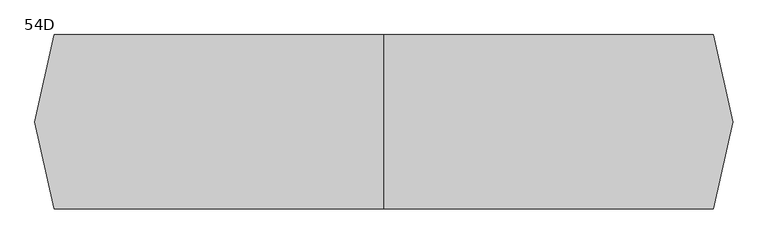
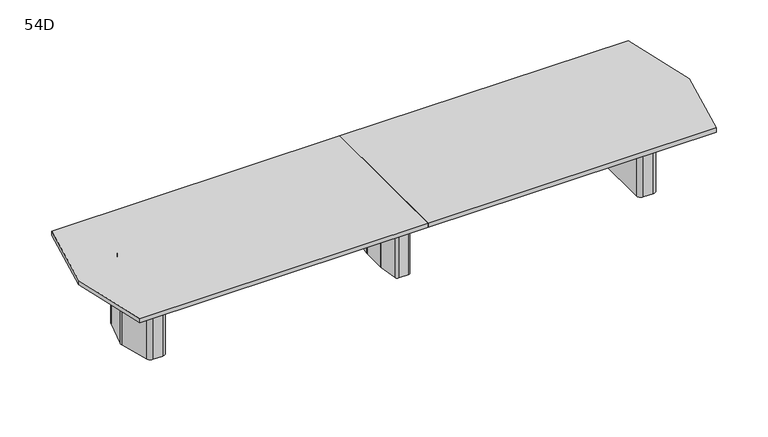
"""IFC4 building model written with IfcOpenShell, lengths in millimetres: furniture geometry, Coalesse_AM_Table_Conference_ETable2_Faceted_18ft_ThreeBase : 54D."""

from ifc_helpers import new_model, si_unit, frame, origin, place, context, project, spatial, polyline, circle_curve, outline, extrude, source, transform, mapped, element, save
from ifc_brep_helpers import plane_surface, cylinder_surface, revolved_surface, advanced_brep


def furniture_54d_fb529151(model_context):
    return source(origin(), model_context, "Body", "SolidModel", [
        advanced_brep(
        [(35.71875, 206.375, 3.175), (10.31875, 231.775, 3.175), (-10.31875, 231.775, 3.175), (-35.71875, 206.375, 3.175), (-35.71875, -206.375, 3.175), (-10.31875, -231.775, 3.175), (10.31875, -231.775, 3.175), (35.71875, -206.375, 3.175), (-61.11875, 206.375, 0.0), (-10.31875, 257.175, 0.0), (10.31875, 257.175, 0.0), (61.11875, 206.375, 0.0), (61.11875, -206.375, 0.0), (10.31875, -257.175, 0.0), (-10.31875, -257.175, 0.0), (-61.11875, -206.375, 0.0), (-61.11875, -206.375, 3.175), (-61.11875, 206.375, 3.175), (-10.31875, -257.175, 3.175), (10.31875, -257.175, 3.175), (61.11875, -206.375, 3.175), (61.11875, 206.375, 3.175), (10.31875, 257.175, 3.175), (-10.31875, 257.175, 3.175), (-92.6215974, 106.2976848, 698.5), (-92.86875, 102.7629613, 698.5), (-92.86875, -102.7629613, 698.5), (-92.6215974, -106.2976848, 698.5), (-67.7988375, -282.9347235, 698.5), (-42.6459902, -304.8, 698.5), (42.6459902, -304.8, 698.5), (67.7988375, -282.9347235, 698.5), (92.6215974, -106.2976848, 698.5), (92.86875, -102.7629613, 698.5), (92.86875, 102.7629613, 698.5), (92.6215974, 106.2976848, 698.5), (67.7988375, 282.9347235, 698.5), (42.6459902, 304.8, 698.5), (-42.6459902, 304.8, 698.5), (-67.7988375, 282.9347235, 698.5), (10.31875, 231.775, 698.5), (35.71875, 206.375, 698.5), (35.71875, -206.375, 698.5), (10.31875, -231.775, 698.5), (-10.31875, -231.775, 698.5), (-35.71875, -206.375, 698.5), (-35.71875, 206.375, 698.5), (-10.31875, 231.775, 698.5), (-92.6215974, 106.2976848, 3.175), (-67.7988375, 282.9347235, 3.175), (-42.6459902, 304.8, 3.175), (42.6459902, 304.8, 3.175), (67.7988375, 282.9347235, 3.175), (92.6215974, 106.2976848, 3.175), (92.86875, 102.7629613, 3.175), (92.86875, -102.7629613, 3.175), (92.6215974, -106.2976848, 3.175), (67.7988375, -282.9347235, 3.175), (42.6459902, -304.8, 3.175), (-42.6459902, -304.8, 3.175), (-67.7988375, -282.9347235, 3.175), (-92.6215974, -106.2976848, 3.175), (-92.86875, -102.7629613, 3.175), (-92.86875, 102.7629613, 3.175)],
        [
            (0, 1, circle_curve(frame((10.31875, 206.375, 3.175), z_axis=(0.0, 0.0, 1.0), x_axis=(1.0, 0.0, 0.0)), 25.4)),
            (1, 2),
            (2, 3, circle_curve(frame((-10.31875, 206.375, 3.175), z_axis=(0.0, 0.0, 1.0), x_axis=(1.0, 0.0, 0.0)), 25.4)),
            (3, 4),
            (4, 5, circle_curve(frame((-10.31875, -206.375, 3.175), z_axis=(0.0, 0.0, 1.0), x_axis=(1.0, 0.0, 0.0)), 25.4)),
            (5, 6),
            (6, 7, circle_curve(frame((10.31875, -206.375, 3.175), z_axis=(0.0, 0.0, 1.0), x_axis=(1.0, 0.0, 0.0)), 25.4)),
            (7, 0),
            (8, 9, circle_curve(frame((-10.31875, 206.375, 0.0), z_axis=(0.0, 0.0, -1.0), x_axis=(1.0, 0.0, 0.0)), 50.8)),
            (9, 10),
            (10, 11, circle_curve(frame((10.31875, 206.375, 0.0), z_axis=(0.0, 0.0, -1.0), x_axis=(1.0, 0.0, 0.0)), 50.8)),
            (11, 12),
            (12, 13, circle_curve(frame((10.31875, -206.375, 0.0), z_axis=(0.0, 0.0, -1.0), x_axis=(1.0, 0.0, 0.0)), 50.8)),
            (13, 14),
            (14, 15, circle_curve(frame((-10.31875, -206.375, 0.0), z_axis=(0.0, 0.0, -1.0), x_axis=(1.0, 0.0, 0.0)), 50.8)),
            (15, 8),
            (15, 16),
            (16, 17),
            (17, 8),
            (14, 18),
            (18, 16, circle_curve(frame((-10.31875, -206.375, 3.175), z_axis=(0.0, 0.0, -1.0), x_axis=(1.0, 0.0, 0.0)), 50.8)),
            (13, 19),
            (19, 18),
            (12, 20),
            (20, 19, circle_curve(frame((10.31875, -206.375, 3.175), z_axis=(0.0, 0.0, -1.0), x_axis=(1.0, 0.0, 0.0)), 50.8)),
            (11, 21),
            (21, 20),
            (10, 22),
            (22, 21, circle_curve(frame((10.31875, 206.375, 3.175), z_axis=(0.0, 0.0, -1.0), x_axis=(1.0, 0.0, 0.0)), 50.8)),
            (9, 23),
            (23, 22),
            (17, 23, circle_curve(frame((-10.31875, 206.375, 3.175), z_axis=(0.0, 0.0, -1.0), x_axis=(1.0, 0.0, 0.0)), 50.8)),
            (24, 25, circle_curve(frame((-67.46875, 102.7629613, 698.5), z_axis=(0.0, 0.0, 1.0), x_axis=(1.0, 0.0, 0.0)), 25.4)),
            (25, 26),
            (26, 27, circle_curve(frame((-67.46875, -102.7629613, 698.5), z_axis=(0.0, 0.0, 1.0), x_axis=(1.0, 0.0, 0.0)), 25.4)),
            (27, 28),
            (28, 29, circle_curve(frame((-42.6459902, -279.4, 698.5), z_axis=(0.0, 0.0, 1.0), x_axis=(1.0, 0.0, 0.0)), 25.4)),
            (29, 30),
            (30, 31, circle_curve(frame((42.6459902, -279.4, 698.5), z_axis=(0.0, 0.0, 1.0), x_axis=(1.0, 0.0, 0.0)), 25.4)),
            (31, 32),
            (32, 33, circle_curve(frame((67.46875, -102.7629613, 698.5), z_axis=(0.0, 0.0, 1.0), x_axis=(1.0, 0.0, 0.0)), 25.4)),
            (33, 34),
            (34, 35, circle_curve(frame((67.46875, 102.7629613, 698.5), z_axis=(0.0, 0.0, 1.0), x_axis=(1.0, 0.0, 0.0)), 25.4)),
            (35, 36),
            (36, 37, circle_curve(frame((42.6459902, 279.4, 698.5), z_axis=(0.0, 0.0, 1.0), x_axis=(1.0, 0.0, 0.0)), 25.4)),
            (37, 38),
            (38, 39, circle_curve(frame((-42.6459902, 279.4, 698.5), z_axis=(0.0, 0.0, 1.0), x_axis=(1.0, 0.0, 0.0)), 25.4)),
            (39, 24),
            (40, 41, circle_curve(frame((10.31875, 206.375, 698.5), z_axis=(0.0, 0.0, -1.0), x_axis=(1.0, 0.0, 0.0)), 25.4)),
            (41, 42),
            (42, 43, circle_curve(frame((10.31875, -206.375, 698.5), z_axis=(0.0, 0.0, -1.0), x_axis=(1.0, 0.0, 0.0)), 25.4)),
            (43, 44),
            (44, 45, circle_curve(frame((-10.31875, -206.375, 698.5), z_axis=(0.0, 0.0, -1.0), x_axis=(1.0, 0.0, 0.0)), 25.4)),
            (45, 46),
            (46, 47, circle_curve(frame((-10.31875, 206.375, 698.5), z_axis=(0.0, 0.0, -1.0), x_axis=(1.0, 0.0, 0.0)), 25.4)),
            (47, 40),
            (48, 49),
            (49, 50, circle_curve(frame((-42.6459902, 279.4, 3.175), z_axis=(0.0, 0.0, -1.0), x_axis=(1.0, 0.0, 0.0)), 25.4)),
            (50, 51),
            (51, 52, circle_curve(frame((42.6459902, 279.4, 3.175), z_axis=(0.0, 0.0, -1.0), x_axis=(1.0, 0.0, 0.0)), 25.4)),
            (52, 53),
            (53, 54, circle_curve(frame((67.46875, 102.7629613, 3.175), z_axis=(0.0, 0.0, -1.0), x_axis=(1.0, 0.0, 0.0)), 25.4)),
            (54, 55),
            (55, 56, circle_curve(frame((67.46875, -102.7629613, 3.175), z_axis=(0.0, 0.0, -1.0), x_axis=(1.0, 0.0, 0.0)), 25.4)),
            (56, 57),
            (57, 58, circle_curve(frame((42.6459902, -279.4, 3.175), z_axis=(0.0, 0.0, -1.0), x_axis=(1.0, 0.0, 0.0)), 25.4)),
            (58, 59),
            (59, 60, circle_curve(frame((-42.6459902, -279.4, 3.175), z_axis=(0.0, 0.0, -1.0), x_axis=(1.0, 0.0, 0.0)), 25.4)),
            (60, 61),
            (61, 62, circle_curve(frame((-67.46875, -102.7629613, 3.175), z_axis=(0.0, 0.0, -1.0), x_axis=(1.0, 0.0, 0.0)), 25.4)),
            (62, 63),
            (63, 48, circle_curve(frame((-67.46875, 102.7629613, 3.175), z_axis=(0.0, 0.0, -1.0), x_axis=(1.0, 0.0, 0.0)), 25.4)),
            (24, 48),
            (63, 25),
            (62, 26),
            (61, 27),
            (60, 28),
            (59, 29),
            (58, 30),
            (57, 31),
            (56, 32),
            (55, 33),
            (54, 34),
            (53, 35),
            (52, 36),
            (51, 37),
            (50, 38),
            (49, 39),
            (40, 1),
            (0, 41),
            (7, 42),
            (6, 43),
            (5, 44),
            (4, 45),
            (3, 46),
            (2, 47),
        ],
        [
            plane_surface(frame((-61.11875, -206.375, 3.175), z_axis=(0.0, 0.0, 1.0), x_axis=(0.0, -1.0, 0.0))),
            plane_surface(frame((-61.11875, -206.375, 0.0), z_axis=(0.0, 0.0, -1.0), x_axis=(0.0, 1.0, 0.0))),
            plane_surface(frame((-61.11875, 206.375, 3.175), z_axis=(-1.0, 0.0, 0.0), x_axis=(0.0, 0.0, -1.0))),
            cylinder_surface(frame((-10.31875, -206.375, 0.0), z_axis=(0.0, 0.0, 1.0), x_axis=(1.0, 0.0, 0.0)), 50.8),
            plane_surface(frame((-10.31875, -257.175, 3.175), z_axis=(0.0, -1.0, 0.0), x_axis=(0.0, 0.0, -1.0))),
            cylinder_surface(frame((10.31875, -206.375, 0.0), z_axis=(0.0, 0.0, 1.0), x_axis=(1.0, 0.0, 0.0)), 50.8),
            plane_surface(frame((61.11875, -206.375, 3.175), z_axis=(1.0, 0.0, 0.0), x_axis=(0.0, 0.0, -1.0))),
            cylinder_surface(frame((10.31875, 206.375, 0.0), z_axis=(0.0, 0.0, 1.0), x_axis=(1.0, 0.0, 0.0)), 50.8),
            plane_surface(frame((10.31875, 257.175, 3.175), z_axis=(0.0, 1.0, 0.0), x_axis=(0.0, 0.0, -1.0))),
            cylinder_surface(frame((-10.31875, 206.375, 0.0), z_axis=(0.0, 0.0, 1.0), x_axis=(1.0, 0.0, 0.0)), 50.8),
            plane_surface(frame((-42.06875, 102.7629613, 698.5), z_axis=(0.0, 0.0, 1.0), x_axis=(0.0, 1.0, 0.0))),
            plane_surface(frame((-42.06875, 102.7629613, 3.175), z_axis=(0.0, 0.0, -1.0), x_axis=(0.0, -1.0, 0.0))),
            cylinder_surface(frame((-67.46875, 102.7629613, 3.175), z_axis=(0.0, 0.0, 1.0), x_axis=(1.0, 0.0, 0.0)), 25.4),
            plane_surface(frame((-92.86875, 102.7629613, 698.5), z_axis=(-1.0, 0.0, 0.0), x_axis=(0.0, 0.0, -1.0))),
            cylinder_surface(frame((-67.46875, -102.7629613, 3.175), z_axis=(0.0, 0.0, 1.0), x_axis=(1.0, 0.0, 0.0)), 25.4),
            plane_surface(frame((-92.6215974, -106.2976848, 698.5), z_axis=(-0.9902695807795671, -0.13916234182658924, 0.0), x_axis=(0.0, 0.0, -1.0))),
            cylinder_surface(frame((-42.6459902, -279.4, 3.175), z_axis=(0.0, 0.0, 1.0), x_axis=(1.0, 0.0, 0.0)), 25.4),
            plane_surface(frame((-42.6459902, -304.8, 698.5), z_axis=(0.0, -1.0, 0.0), x_axis=(0.0, 0.0, -1.0))),
            cylinder_surface(frame((42.6459902, -279.4, 3.175), z_axis=(0.0, 0.0, 1.0), x_axis=(1.0, 0.0, 0.0)), 25.4),
            plane_surface(frame((67.7988375, -282.9347235, 698.5), z_axis=(0.9902695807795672, -0.13916234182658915, 0.0), x_axis=(0.0, 0.0, -1.0))),
            cylinder_surface(frame((67.46875, -102.7629613, 3.175), z_axis=(0.0, 0.0, 1.0), x_axis=(1.0, 0.0, 0.0)), 25.4),
            plane_surface(frame((92.86875, -102.7629613, 698.5), z_axis=(1.0, 0.0, 0.0), x_axis=(0.0, 0.0, -1.0))),
            cylinder_surface(frame((67.46875, 102.7629613, 3.175), z_axis=(0.0, 0.0, 1.0), x_axis=(1.0, 0.0, 0.0)), 25.4),
            plane_surface(frame((92.6215974, 106.2976848, 698.5), z_axis=(0.9902695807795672, 0.1391623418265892, 0.0), x_axis=(0.0, 0.0, -1.0))),
            cylinder_surface(frame((42.6459902, 279.4, 3.175), z_axis=(0.0, 0.0, 1.0), x_axis=(1.0, 0.0, 0.0)), 25.4),
            plane_surface(frame((42.6459902, 304.8, 698.5), z_axis=(0.0, 1.0, 0.0), x_axis=(0.0, 0.0, -1.0))),
            cylinder_surface(frame((-42.6459902, 279.4, 3.175), z_axis=(0.0, 0.0, 1.0), x_axis=(1.0, 0.0, 0.0)), 25.4),
            plane_surface(frame((-67.7988375, 282.9347235, 698.5), z_axis=(-0.9902695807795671, 0.13916234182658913, 0.0), x_axis=(0.0, 0.0, -1.0))),
            revolved_surface(polyline([(35.71875, 206.375, 3.175), (35.71875, 206.375, 698.5)]), (10.31875, 206.375, 0.0), (0.0, 0.0, -1.0)),
            plane_surface(frame((35.71875, 206.375, 698.5), z_axis=(-1.0, 0.0, 0.0), x_axis=(0.0, 0.0, -1.0))),
            revolved_surface(polyline([(35.71875, -206.375, 3.175), (35.71875, -206.375, 698.5)]), (10.31875, -206.375, 0.0), (0.0, 0.0, -1.0)),
            plane_surface(frame((10.31875, -231.775, 698.5), z_axis=(0.0, 1.0, 0.0), x_axis=(0.0, 0.0, -1.0))),
            revolved_surface(polyline([(15.081249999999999, -206.375, 3.175), (15.081249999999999, -206.375, 698.5)]), (-10.31875, -206.375, 0.0), (0.0, 0.0, -1.0)),
            plane_surface(frame((-35.71875, -206.375, 698.5), z_axis=(1.0, 0.0, 0.0), x_axis=(0.0, 0.0, -1.0))),
            revolved_surface(polyline([(15.081249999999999, 206.375, 3.175), (15.081249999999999, 206.375, 698.5)]), (-10.31875, 206.375, 0.0), (0.0, 0.0, -1.0)),
            plane_surface(frame((-10.31875, 231.775, 698.5), z_axis=(0.0, -1.0, 0.0), x_axis=(0.0, 0.0, -1.0))),
        ],
        [
            (0, [[1, 2, 3, 4, 5, 6, 7, 8]]),
            (1, [[9, 10, 11, 12, 13, 14, 15, 16]]),
            (2, [[-16, 17, 18, 19]]),
            (3, [[-15, 20, 21, -17]]),
            (4, [[-14, 22, 23, -20]]),
            (5, [[-13, 24, 25, -22]]),
            (6, [[-12, 26, 27, -24]]),
            (7, [[-11, 28, 29, -26]]),
            (8, [[-10, 30, 31, -28]]),
            (9, [[-9, -19, 32, -30]]),
            (10, [[33, 34, 35, 36, 37, 38, 39, 40, 41, 42, 43, 44, 45, 46, 47, 48], [49, 50, 51, 52, 53, 54, 55, 56]]),
            (11, [[57, 58, 59, 60, 61, 62, 63, 64, 65, 66, 67, 68, 69, 70, 71, 72], [-18, -21, -23, -25, -27, -29, -31, -32]]),
            (12, [[-33, 73, -72, 74]]),
            (13, [[-34, -74, -71, 75]]),
            (14, [[-35, -75, -70, 76]]),
            (15, [[-36, -76, -69, 77]]),
            (16, [[-37, -77, -68, 78]]),
            (17, [[-38, -78, -67, 79]]),
            (18, [[-39, -79, -66, 80]]),
            (19, [[-40, -80, -65, 81]]),
            (20, [[-41, -81, -64, 82]]),
            (21, [[-42, -82, -63, 83]]),
            (22, [[-43, -83, -62, 84]]),
            (23, [[-44, -84, -61, 85]]),
            (24, [[-45, -85, -60, 86]]),
            (25, [[-46, -86, -59, 87]]),
            (26, [[-47, -87, -58, 88]]),
            (27, [[-48, -88, -57, -73]]),
            (28, [[-49, 89, -1, 90]]),
            (29, [[-50, -90, -8, 91]]),
            (30, [[-51, -91, -7, 92]]),
            (31, [[-52, -92, -6, 93]]),
            (32, [[-53, -93, -5, 94]]),
            (33, [[-54, -94, -4, 95]]),
            (34, [[-55, -95, -3, 96]]),
            (35, [[-56, -96, -2, -89]]),
        ],
    ),
        advanced_brep(
        [(2284.624548, 274.2093613, 698.5), (2244.7579246, 304.8, 698.5), (2155.825, 304.8, 698.5), (2114.55, 263.525, 698.5), (2114.55, -263.525, 698.5), (2155.825, -304.8, 698.5), (2244.7579246, -304.8, 698.5), (2284.624548, -274.2093613, 698.5), (2355.2503901, -10.6333708, 698.5), (2355.2503901, 10.6333708, 698.5), (2152.65, -206.375, 698.5), (2152.65, 206.375, 698.5), (2178.05, 231.775, 698.5), (2237.0608422, 231.775, 698.5), (2261.595338, 212.9490792, 698.5), (2300.2875, 68.54974, 698.5), (2300.2875, -68.54974, 698.5), (2261.595338, -212.9490792, 698.5), (2237.0608422, -231.775, 698.5), (2178.05, -231.775, 698.5), (2284.624548, 274.2093613, 3.175), (2355.2503901, 10.6333708, 3.175), (2355.2503901, -10.6333708, 3.175), (2284.624548, -274.2093613, 3.175), (2244.7579246, -304.8, 3.175), (2155.825, -304.8, 3.175), (2114.55, -263.525, 3.175), (2114.55, 263.525, 3.175), (2155.825, 304.8, 3.175), (2244.7579246, 304.8, 3.175), (2273.8625859, 216.2361187, 3.175), (2237.0608422, 244.475, 3.175), (2178.05, 244.475, 3.175), (2139.95, 206.375, 3.175), (2139.95, -206.375, 3.175), (2178.05, -244.475, 3.175), (2237.0608422, -244.475, 3.175), (2273.8625859, -216.2361187, 3.175), (2312.9875, -70.2217466, 3.175), (2312.9875, 70.2217466, 3.175), (2178.05, -231.775, 3.175), (2152.65, -206.375, 3.175), (2237.0608422, -231.775, 3.175), (2261.595338, -212.9490792, 3.175), (2300.2875, -68.54974, 3.175), (2300.2875, 68.54974, 3.175), (2261.595338, 212.9490792, 3.175), (2237.0608422, 231.775, 3.175), (2178.05, 231.775, 3.175), (2152.65, 206.375, 3.175), (2273.8625859, 216.2361187, 0.0), (2312.9875, 70.2217466, 0.0), (2312.9875, -70.2217466, 0.0), (2273.8625859, -216.2361187, 0.0), (2237.0608422, -244.475, 0.0), (2178.05, -244.475, 0.0), (2139.95, -206.375, 0.0), (2139.95, 206.375, 0.0), (2178.05, 244.475, 0.0), (2237.0608422, 244.475, 0.0)],
        [
            (0, 1, circle_curve(frame((2244.7579246, 263.5270004, 698.5), z_axis=(0.0, 0.0, 1.0), x_axis=(-1.0, 0.0, 0.0)), 41.2729996)),
            (1, 2),
            (2, 3, circle_curve(frame((2155.825, 263.525, 698.5), z_axis=(0.0, 0.0, 1.0), x_axis=(-1.0, 0.0, 0.0)), 41.275)),
            (3, 4),
            (4, 5, circle_curve(frame((2155.825, -263.525, 698.5), z_axis=(0.0, 0.0, 1.0), x_axis=(-1.0, 0.0, 0.0)), 41.275)),
            (5, 6),
            (6, 7, circle_curve(frame((2244.7579246, -263.5270004, 698.5), z_axis=(0.0, 0.0, 1.0), x_axis=(-1.0, 0.0, 0.0)), 41.2729996)),
            (7, 8),
            (8, 9, circle_curve(frame((2315.5665979, 0.0, 698.5), z_axis=(0.0, 0.0, 1.0), x_axis=(-1.0, 0.0, 0.0)), 41.0837187)),
            (9, 0),
            (10, 11),
            (11, 12, circle_curve(frame((2178.05, 206.375, 698.5), z_axis=(0.0, 0.0, -1.0), x_axis=(-1.0, 0.0, 0.0)), 25.4)),
            (12, 13),
            (13, 14, circle_curve(frame((2237.0608422, 206.375, 698.5), z_axis=(0.0, 0.0, -1.0), x_axis=(-1.0, 0.0, 0.0)), 25.4)),
            (14, 15),
            (15, 16),
            (16, 17),
            (17, 18, circle_curve(frame((2237.0608422, -206.375, 698.5), z_axis=(0.0, 0.0, -1.0), x_axis=(-1.0, 0.0, 0.0)), 25.4)),
            (18, 19),
            (19, 10, circle_curve(frame((2178.05, -206.375, 698.5), z_axis=(0.0, 0.0, -1.0), x_axis=(-1.0, 0.0, 0.0)), 25.4)),
            (20, 21),
            (21, 22, circle_curve(frame((2315.5665979, 0.0, 3.175), z_axis=(0.0, 0.0, -1.0), x_axis=(-1.0, 0.0, 0.0)), 41.0837187)),
            (22, 23),
            (23, 24, circle_curve(frame((2244.7579246, -263.5270004, 3.175), z_axis=(0.0, 0.0, -1.0), x_axis=(-1.0, 0.0, 0.0)), 41.2729996)),
            (24, 25),
            (25, 26, circle_curve(frame((2155.825, -263.525, 3.175), z_axis=(0.0, 0.0, -1.0), x_axis=(-1.0, 0.0, 0.0)), 41.275)),
            (26, 27),
            (27, 28, circle_curve(frame((2155.825, 263.525, 3.175), z_axis=(0.0, 0.0, -1.0), x_axis=(-1.0, 0.0, 0.0)), 41.275)),
            (28, 29),
            (29, 20, circle_curve(frame((2244.7579246, 263.5270004, 3.175), z_axis=(0.0, 0.0, -1.0), x_axis=(-1.0, 0.0, 0.0)), 41.2729996)),
            (30, 31, circle_curve(frame((2237.0608422, 206.375, 3.175), z_axis=(0.0, 0.0, 1.0), x_axis=(-1.0, 0.0, 0.0)), 38.1)),
            (31, 32),
            (32, 33, circle_curve(frame((2178.05, 206.375, 3.175), z_axis=(0.0, 0.0, 1.0), x_axis=(-1.0, 0.0, 0.0)), 38.1)),
            (33, 34),
            (34, 35, circle_curve(frame((2178.05, -206.375, 3.175), z_axis=(0.0, 0.0, 1.0), x_axis=(-1.0, 0.0, 0.0)), 38.1)),
            (35, 36),
            (36, 37, circle_curve(frame((2237.0608422, -206.375, 3.175), z_axis=(0.0, 0.0, 1.0), x_axis=(-1.0, 0.0, 0.0)), 38.1)),
            (37, 38),
            (38, 39),
            (39, 30),
            (9, 21),
            (20, 0),
            (8, 22),
            (7, 23),
            (6, 24),
            (5, 25),
            (4, 26),
            (3, 27),
            (2, 28),
            (1, 29),
            (19, 40),
            (40, 41, circle_curve(frame((2178.05, -206.375, 3.175), z_axis=(0.0, 0.0, -1.0), x_axis=(-1.0, 0.0, 0.0)), 25.4)),
            (41, 10),
            (18, 42),
            (42, 40),
            (17, 43),
            (43, 42, circle_curve(frame((2237.0608422, -206.375, 3.175), z_axis=(0.0, 0.0, -1.0), x_axis=(-1.0, 0.0, 0.0)), 25.4)),
            (16, 44),
            (44, 43),
            (15, 45),
            (45, 44),
            (14, 46),
            (46, 45),
            (13, 47),
            (47, 46, circle_curve(frame((2237.0608422, 206.375, 3.175), z_axis=(0.0, 0.0, -1.0), x_axis=(-1.0, 0.0, 0.0)), 25.4)),
            (12, 48),
            (48, 47),
            (11, 49),
            (49, 48, circle_curve(frame((2178.05, 206.375, 3.175), z_axis=(0.0, 0.0, -1.0), x_axis=(-1.0, 0.0, 0.0)), 25.4)),
            (41, 49),
            (50, 51),
            (51, 52),
            (52, 53),
            (53, 54, circle_curve(frame((2237.0608422, -206.375, 0.0), z_axis=(0.0, 0.0, -1.0), x_axis=(-1.0, 0.0, 0.0)), 38.1)),
            (54, 55),
            (55, 56, circle_curve(frame((2178.05, -206.375, 0.0), z_axis=(0.0, 0.0, -1.0), x_axis=(-1.0, 0.0, 0.0)), 38.1)),
            (56, 57),
            (57, 58, circle_curve(frame((2178.05, 206.375, 0.0), z_axis=(0.0, 0.0, -1.0), x_axis=(-1.0, 0.0, 0.0)), 38.1)),
            (58, 59),
            (59, 50, circle_curve(frame((2237.0608422, 206.375, 0.0), z_axis=(0.0, 0.0, -1.0), x_axis=(-1.0, 0.0, 0.0)), 38.1)),
            (50, 30),
            (39, 51),
            (38, 52),
            (37, 53),
            (36, 54),
            (35, 55),
            (34, 56),
            (33, 57),
            (32, 58),
            (31, 59),
        ],
        [
            plane_surface(frame((2355.2374275, 10.6817473, 698.5), z_axis=(0.0, 0.0, 1.0000000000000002), x_axis=(0.25882201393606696, -0.9659250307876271, 0.0))),
            plane_surface(frame((2355.2374275, 10.6817473, 3.175), z_axis=(0.0, 0.0, -1.0000000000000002), x_axis=(-0.25882201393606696, 0.9659250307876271, 0.0))),
            plane_surface(frame((2284.624548, 274.2093613, 698.5), z_axis=(0.9659250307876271, 0.25882201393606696, 0.0), x_axis=(0.0, 0.0, -1.0))),
            cylinder_surface(frame((2315.5665979, 0.0, 3.175), z_axis=(0.0, 0.0, 1.0), x_axis=(-1.0, 0.0, 0.0)), 41.0837187),
            plane_surface(frame((2355.2503901, -10.6333708, 698.5), z_axis=(0.9659250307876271, -0.2588220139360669, 0.0), x_axis=(0.0, 0.0, -1.0))),
            cylinder_surface(frame((2244.7579246, -263.5270004, 3.175), z_axis=(0.0, 0.0, 1.0), x_axis=(-1.0, 0.0, 0.0)), 41.2729996),
            plane_surface(frame((2244.7579246, -304.8, 698.5), z_axis=(0.0, -1.0, 0.0), x_axis=(0.0, 0.0, -1.0))),
            cylinder_surface(frame((2155.825, -263.525, 3.175), z_axis=(0.0, 0.0, 1.0), x_axis=(-1.0, 0.0, 0.0)), 41.275),
            plane_surface(frame((2114.55, -263.525, 698.5), z_axis=(-1.0, 0.0, 0.0), x_axis=(0.0, 0.0, -1.0))),
            cylinder_surface(frame((2155.825, 263.525, 3.175), z_axis=(0.0, 0.0, 1.0), x_axis=(-1.0, 0.0, 0.0)), 41.275),
            plane_surface(frame((2155.825, 304.8, 698.5), z_axis=(0.0, 1.0, 0.0), x_axis=(0.0, 0.0, -1.0))),
            cylinder_surface(frame((2244.7579246, 263.5270004, 3.175), z_axis=(0.0, 0.0, 1.0), x_axis=(-1.0, 0.0, 0.0)), 41.2729996),
            revolved_surface(polyline([(2152.65, -206.375, 3.175), (2152.65, -206.375, 698.5)]), (2178.05, -206.375, 0.0), (0.0, 0.0, -1.0)),
            plane_surface(frame((2178.05, -231.775, 698.5), z_axis=(0.0, 1.0, 0.0), x_axis=(0.0, 0.0, -1.0))),
            revolved_surface(polyline([(2211.6608422, -206.375, 3.175), (2211.6608422, -206.375, 698.5)]), (2237.0608422, -206.375, 0.0), (0.0, 0.0, -1.0)),
            plane_surface(frame((2261.595338, -212.9490792, 698.5), z_axis=(-0.9659250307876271, 0.2588220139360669, 0.0), x_axis=(0.0, 0.0, -1.0))),
            plane_surface(frame((2300.2875, -68.54974, 698.5), z_axis=(-1.0, 0.0, 0.0), x_axis=(0.0, 0.0, -1.0))),
            plane_surface(frame((2300.2875, 68.54974, 698.5), z_axis=(-0.9659250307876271, -0.25882201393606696, 0.0), x_axis=(0.0, 0.0, -1.0))),
            revolved_surface(polyline([(2211.6608422, 206.375, 3.175), (2211.6608422, 206.375, 698.5)]), (2237.0608422, 206.375, 0.0), (0.0, 0.0, -1.0)),
            plane_surface(frame((2237.0608422, 231.775, 698.5), z_axis=(0.0, -1.0, 0.0), x_axis=(0.0, 0.0, -1.0))),
            revolved_surface(polyline([(2152.65, 206.375, 3.175), (2152.65, 206.375, 698.5)]), (2178.05, 206.375, 0.0), (0.0, 0.0, -1.0)),
            plane_surface(frame((2152.65, 206.375, 698.5), z_axis=(1.0, 0.0, 0.0), x_axis=(0.0, 0.0, -1.0))),
            plane_surface(frame((2312.5547479, 71.8367796, 3.175), z_axis=(0.0, 0.0, 1.0), x_axis=(0.25882201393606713, -0.965925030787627, 0.0))),
            plane_surface(frame((2312.5547479, 71.8367796, 0.0), z_axis=(0.0, 0.0, -1.0), x_axis=(-0.25882201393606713, 0.965925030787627, 0.0))),
            plane_surface(frame((2273.8625859, 216.2361187, 3.175), z_axis=(0.965925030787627, 0.25882201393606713, 0.0), x_axis=(0.0, 0.0, -1.0))),
            plane_surface(frame((2312.9875, 70.2217466, 3.175), z_axis=(1.0, 0.0, 0.0), x_axis=(0.0, 0.0, -1.0))),
            plane_surface(frame((2312.9875, -70.2217466, 3.175), z_axis=(0.9659250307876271, -0.2588220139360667, 0.0), x_axis=(0.0, 0.0, -1.0))),
            cylinder_surface(frame((2237.0608422, -206.375, 0.0), z_axis=(0.0, 0.0, 1.0), x_axis=(-1.0, 0.0, 0.0)), 38.1),
            plane_surface(frame((2237.0608422, -244.475, 3.175), z_axis=(0.0, -1.0, 0.0), x_axis=(0.0, 0.0, -1.0))),
            cylinder_surface(frame((2178.05, -206.375, 0.0), z_axis=(0.0, 0.0, 1.0), x_axis=(-1.0, 0.0, 0.0)), 38.1),
            plane_surface(frame((2139.95, -206.375, 3.175), z_axis=(-1.0, 0.0, 0.0), x_axis=(0.0, 0.0, -1.0))),
            cylinder_surface(frame((2178.05, 206.375, 0.0), z_axis=(0.0, 0.0, 1.0), x_axis=(-1.0, 0.0, 0.0)), 38.1),
            plane_surface(frame((2178.05, 244.475, 3.175), z_axis=(0.0, 1.0, 0.0), x_axis=(0.0, 0.0, -1.0))),
            cylinder_surface(frame((2237.0608422, 206.375, 0.0), z_axis=(0.0, 0.0, 1.0), x_axis=(-1.0, 0.0, 0.0)), 38.1),
        ],
        [
            (0, [[1, 2, 3, 4, 5, 6, 7, 8, 9, 10], [11, 12, 13, 14, 15, 16, 17, 18, 19, 20]]),
            (1, [[21, 22, 23, 24, 25, 26, 27, 28, 29, 30], [31, 32, 33, 34, 35, 36, 37, 38, 39, 40]]),
            (2, [[41, -21, 42, -10]]),
            (3, [[43, -22, -41, -9]]),
            (4, [[44, -23, -43, -8]]),
            (5, [[45, -24, -44, -7]]),
            (6, [[46, -25, -45, -6]]),
            (7, [[47, -26, -46, -5]]),
            (8, [[48, -27, -47, -4]]),
            (9, [[49, -28, -48, -3]]),
            (10, [[50, -29, -49, -2]]),
            (11, [[-42, -30, -50, -1]]),
            (12, [[51, 52, 53, -20]]),
            (13, [[54, 55, -51, -19]]),
            (14, [[56, 57, -54, -18]]),
            (15, [[58, 59, -56, -17]]),
            (16, [[60, 61, -58, -16]]),
            (17, [[62, 63, -60, -15]]),
            (18, [[64, 65, -62, -14]]),
            (19, [[66, 67, -64, -13]]),
            (20, [[68, 69, -66, -12]]),
            (21, [[-53, 70, -68, -11]]),
            (22, [[-55, -57, -59, -61, -63, -65, -67, -69, -70, -52]]),
            (23, [[71, 72, 73, 74, 75, 76, 77, 78, 79, 80]]),
            (24, [[81, -40, 82, -71]]),
            (25, [[-82, -39, 83, -72]]),
            (26, [[-83, -38, 84, -73]]),
            (27, [[-84, -37, 85, -74]]),
            (28, [[-85, -36, 86, -75]]),
            (29, [[-86, -35, 87, -76]]),
            (30, [[-87, -34, 88, -77]]),
            (31, [[-88, -33, 89, -78]]),
            (32, [[-89, -32, 90, -79]]),
            (33, [[-90, -31, -81, -80]]),
        ],
    ),
        advanced_brep(
        [(-2295.737048, 274.2093613, 698.5), (-2366.3628901, 10.6333708, 698.5), (-2366.3628901, -10.6333708, 698.5), (-2295.737048, -274.2093613, 698.5), (-2255.8704246, -304.8, 698.5), (-2166.9375, -304.8, 698.5), (-2125.6625, -263.525, 698.5), (-2125.6625, 263.525, 698.5), (-2166.9375, 304.8, 698.5), (-2255.8704246, 304.8, 698.5), (-2163.7625, -206.375, 698.5), (-2189.1625, -231.775, 698.5), (-2248.1733422, -231.775, 698.5), (-2272.707838, -212.9490792, 698.5), (-2311.4, -68.54974, 698.5), (-2311.4, 68.54974, 698.5), (-2272.707838, 212.9490792, 698.5), (-2248.1733422, 231.775, 698.5), (-2189.1625, 231.775, 698.5), (-2163.7625, 206.375, 698.5), (-2295.737048, 274.2093613, 3.175), (-2255.8704246, 304.8, 3.175), (-2166.9375, 304.8, 3.175), (-2125.6625, 263.525, 3.175), (-2125.6625, -263.525, 3.175), (-2166.9375, -304.8, 3.175), (-2255.8704246, -304.8, 3.175), (-2295.737048, -274.2093613, 3.175), (-2366.3628901, -10.6333708, 3.175), (-2366.3628901, 10.6333708, 3.175), (-2284.9750859, 216.2361187, 3.175), (-2324.1, 70.2217466, 3.175), (-2324.1, -70.2217466, 3.175), (-2284.9750859, -216.2361187, 3.175), (-2248.1733422, -244.475, 3.175), (-2189.1625, -244.475, 3.175), (-2151.0625, -206.375, 3.175), (-2151.0625, 206.375, 3.175), (-2189.1625, 244.475, 3.175), (-2248.1733422, 244.475, 3.175), (-2163.7625, -206.375, 3.175), (-2189.1625, -231.775, 3.175), (-2248.1733422, -231.775, 3.175), (-2272.707838, -212.9490792, 3.175), (-2311.4, -68.54974, 3.175), (-2311.4, 68.54974, 3.175), (-2272.707838, 212.9490792, 3.175), (-2248.1733422, 231.775, 3.175), (-2189.1625, 231.775, 3.175), (-2163.7625, 206.375, 3.175), (-2284.9750859, 216.2361187, 0.0), (-2248.1733422, 244.475, 0.0), (-2189.1625, 244.475, 0.0), (-2151.0625, 206.375, 0.0), (-2151.0625, -206.375, 0.0), (-2189.1625, -244.475, 0.0), (-2248.1733422, -244.475, 0.0), (-2284.9750859, -216.2361187, 0.0), (-2324.1, -70.2217466, 0.0), (-2324.1, 70.2217466, 0.0)],
        [
            (0, 1),
            (1, 2, circle_curve(frame((-2326.6790979, 0.0, 698.5), z_axis=(0.0, 0.0, 1.0), x_axis=(1.0, 0.0, 0.0)), 41.0837187)),
            (2, 3),
            (3, 4, circle_curve(frame((-2255.8704246, -263.5270004, 698.5), z_axis=(0.0, 0.0, 1.0), x_axis=(1.0, 0.0, 0.0)), 41.2729996)),
            (4, 5),
            (5, 6, circle_curve(frame((-2166.9375, -263.525, 698.5), z_axis=(0.0, 0.0, 1.0), x_axis=(1.0, 0.0, 0.0)), 41.275)),
            (6, 7),
            (7, 8, circle_curve(frame((-2166.9375, 263.525, 698.5), z_axis=(0.0, 0.0, 1.0), x_axis=(1.0, 0.0, 0.0)), 41.275)),
            (8, 9),
            (9, 0, circle_curve(frame((-2255.8704246, 263.5270004, 698.5), z_axis=(0.0, 0.0, 1.0), x_axis=(1.0, 0.0, 0.0)), 41.2729996)),
            (10, 11, circle_curve(frame((-2189.1625, -206.375, 698.5), z_axis=(0.0, 0.0, -1.0), x_axis=(1.0, 0.0, 0.0)), 25.4)),
            (11, 12),
            (12, 13, circle_curve(frame((-2248.1733422, -206.375, 698.5), z_axis=(0.0, 0.0, -1.0), x_axis=(1.0, 0.0, 0.0)), 25.4)),
            (13, 14),
            (14, 15),
            (15, 16),
            (16, 17, circle_curve(frame((-2248.1733422, 206.375, 698.5), z_axis=(0.0, 0.0, -1.0), x_axis=(1.0, 0.0, 0.0)), 25.4)),
            (17, 18),
            (18, 19, circle_curve(frame((-2189.1625, 206.375, 698.5), z_axis=(0.0, 0.0, -1.0), x_axis=(1.0, 0.0, 0.0)), 25.4)),
            (19, 10),
            (20, 21, circle_curve(frame((-2255.8704246, 263.5270004, 3.175), z_axis=(0.0, 0.0, -1.0), x_axis=(1.0, 0.0, 0.0)), 41.2729996)),
            (21, 22),
            (22, 23, circle_curve(frame((-2166.9375, 263.525, 3.175), z_axis=(0.0, 0.0, -1.0), x_axis=(1.0, 0.0, 0.0)), 41.275)),
            (23, 24),
            (24, 25, circle_curve(frame((-2166.9375, -263.525, 3.175), z_axis=(0.0, 0.0, -1.0), x_axis=(1.0, 0.0, 0.0)), 41.275)),
            (25, 26),
            (26, 27, circle_curve(frame((-2255.8704246, -263.5270004, 3.175), z_axis=(0.0, 0.0, -1.0), x_axis=(1.0, 0.0, 0.0)), 41.2729996)),
            (27, 28),
            (28, 29, circle_curve(frame((-2326.6790979, 0.0, 3.175), z_axis=(0.0, 0.0, -1.0), x_axis=(1.0, 0.0, 0.0)), 41.0837187)),
            (29, 20),
            (30, 31),
            (31, 32),
            (32, 33),
            (33, 34, circle_curve(frame((-2248.1733422, -206.375, 3.175), z_axis=(0.0, 0.0, 1.0), x_axis=(1.0, 0.0, 0.0)), 38.1)),
            (34, 35),
            (35, 36, circle_curve(frame((-2189.1625, -206.375, 3.175), z_axis=(0.0, 0.0, 1.0), x_axis=(1.0, 0.0, 0.0)), 38.1)),
            (36, 37),
            (37, 38, circle_curve(frame((-2189.1625, 206.375, 3.175), z_axis=(0.0, 0.0, 1.0), x_axis=(1.0, 0.0, 0.0)), 38.1)),
            (38, 39),
            (39, 30, circle_curve(frame((-2248.1733422, 206.375, 3.175), z_axis=(0.0, 0.0, 1.0), x_axis=(1.0, 0.0, 0.0)), 38.1)),
            (0, 20),
            (29, 1),
            (28, 2),
            (27, 3),
            (26, 4),
            (25, 5),
            (24, 6),
            (23, 7),
            (22, 8),
            (21, 9),
            (10, 40),
            (40, 41, circle_curve(frame((-2189.1625, -206.375, 3.175), z_axis=(0.0, 0.0, -1.0), x_axis=(1.0, 0.0, 0.0)), 25.4)),
            (41, 11),
            (41, 42),
            (42, 12),
            (42, 43, circle_curve(frame((-2248.1733422, -206.375, 3.175), z_axis=(0.0, 0.0, -1.0), x_axis=(1.0, 0.0, 0.0)), 25.4)),
            (43, 13),
            (43, 44),
            (44, 14),
            (44, 45),
            (45, 15),
            (45, 46),
            (46, 16),
            (46, 47, circle_curve(frame((-2248.1733422, 206.375, 3.175), z_axis=(0.0, 0.0, -1.0), x_axis=(1.0, 0.0, 0.0)), 25.4)),
            (47, 17),
            (47, 48),
            (48, 18),
            (48, 49, circle_curve(frame((-2189.1625, 206.375, 3.175), z_axis=(0.0, 0.0, -1.0), x_axis=(1.0, 0.0, 0.0)), 25.4)),
            (49, 19),
            (49, 40),
            (50, 51, circle_curve(frame((-2248.1733422, 206.375, 0.0), z_axis=(0.0, 0.0, -1.0), x_axis=(1.0, 0.0, 0.0)), 38.1)),
            (51, 52),
            (52, 53, circle_curve(frame((-2189.1625, 206.375, 0.0), z_axis=(0.0, 0.0, -1.0), x_axis=(1.0, 0.0, 0.0)), 38.1)),
            (53, 54),
            (54, 55, circle_curve(frame((-2189.1625, -206.375, 0.0), z_axis=(0.0, 0.0, -1.0), x_axis=(1.0, 0.0, 0.0)), 38.1)),
            (55, 56),
            (56, 57, circle_curve(frame((-2248.1733422, -206.375, 0.0), z_axis=(0.0, 0.0, -1.0), x_axis=(1.0, 0.0, 0.0)), 38.1)),
            (57, 58),
            (58, 59),
            (59, 50),
            (59, 31),
            (30, 50),
            (58, 32),
            (57, 33),
            (56, 34),
            (55, 35),
            (54, 36),
            (53, 37),
            (52, 38),
            (51, 39),
        ],
        [
            plane_surface(frame((-2366.3499275, 10.6817473, 698.5), z_axis=(0.0, 0.0, 1.0000000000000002), x_axis=(-0.25882201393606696, -0.9659250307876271, 0.0))),
            plane_surface(frame((-2366.3499275, 10.6817473, 3.175), z_axis=(0.0, 0.0, -1.0000000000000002), x_axis=(0.25882201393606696, 0.9659250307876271, 0.0))),
            plane_surface(frame((-2295.737048, 274.2093613, 698.5), z_axis=(-0.9659250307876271, 0.25882201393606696, 0.0), x_axis=(0.0, 0.0, -1.0))),
            cylinder_surface(frame((-2326.6790979, 0.0, 3.175), z_axis=(0.0, 0.0, 1.0), x_axis=(1.0, 0.0, 0.0)), 41.0837187),
            plane_surface(frame((-2366.3628901, -10.6333708, 698.5), z_axis=(-0.9659250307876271, -0.2588220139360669, 0.0), x_axis=(0.0, 0.0, -1.0))),
            cylinder_surface(frame((-2255.8704246, -263.5270004, 3.175), z_axis=(0.0, 0.0, 1.0), x_axis=(1.0, 0.0, 0.0)), 41.2729996),
            plane_surface(frame((-2255.8704246, -304.8, 698.5), z_axis=(0.0, -1.0, 0.0), x_axis=(0.0, 0.0, -1.0))),
            cylinder_surface(frame((-2166.9375, -263.525, 3.175), z_axis=(0.0, 0.0, 1.0), x_axis=(1.0, 0.0, 0.0)), 41.275),
            plane_surface(frame((-2125.6625, -263.525, 698.5), z_axis=(1.0, 0.0, 0.0), x_axis=(0.0, 0.0, -1.0))),
            cylinder_surface(frame((-2166.9375, 263.525, 3.175), z_axis=(0.0, 0.0, 1.0), x_axis=(1.0, 0.0, 0.0)), 41.275),
            plane_surface(frame((-2166.9375, 304.8, 698.5), z_axis=(0.0, 1.0, 0.0), x_axis=(0.0, 0.0, -1.0))),
            cylinder_surface(frame((-2255.8704246, 263.5270004, 3.175), z_axis=(0.0, 0.0, 1.0), x_axis=(1.0, 0.0, 0.0)), 41.2729996),
            revolved_surface(polyline([(-2163.7625, -206.375, 3.175), (-2163.7625, -206.375, 698.5)]), (-2189.1625, -206.375, 0.0), (0.0, 0.0, -1.0)),
            plane_surface(frame((-2189.1625, -231.775, 698.5), z_axis=(0.0, 1.0, 0.0), x_axis=(0.0, 0.0, -1.0))),
            revolved_surface(polyline([(-2222.7733422, -206.375, 3.175), (-2222.7733422, -206.375, 698.5)]), (-2248.1733422, -206.375, 0.0), (0.0, 0.0, -1.0)),
            plane_surface(frame((-2272.707838, -212.9490792, 698.5), z_axis=(0.9659250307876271, 0.2588220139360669, 0.0), x_axis=(0.0, 0.0, -1.0))),
            plane_surface(frame((-2311.4, -68.54974, 698.5), z_axis=(1.0, 0.0, 0.0), x_axis=(0.0, 0.0, -1.0))),
            plane_surface(frame((-2311.4, 68.54974, 698.5), z_axis=(0.9659250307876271, -0.25882201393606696, 0.0), x_axis=(0.0, 0.0, -1.0))),
            revolved_surface(polyline([(-2222.7733422, 206.375, 3.175), (-2222.7733422, 206.375, 698.5)]), (-2248.1733422, 206.375, 0.0), (0.0, 0.0, -1.0)),
            plane_surface(frame((-2248.1733422, 231.775, 698.5), z_axis=(0.0, -1.0, 0.0), x_axis=(0.0, 0.0, -1.0))),
            revolved_surface(polyline([(-2163.7625, 206.375, 3.175), (-2163.7625, 206.375, 698.5)]), (-2189.1625, 206.375, 0.0), (0.0, 0.0, -1.0)),
            plane_surface(frame((-2163.7625, 206.375, 698.5), z_axis=(-1.0, 0.0, 0.0), x_axis=(0.0, 0.0, -1.0))),
            plane_surface(frame((-2323.6672479, 71.8367796, 3.175), z_axis=(0.0, 0.0, 1.0), x_axis=(-0.25882201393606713, -0.965925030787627, 0.0))),
            plane_surface(frame((-2323.6672479, 71.8367796, 0.0), z_axis=(0.0, 0.0, -1.0), x_axis=(0.25882201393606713, 0.965925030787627, 0.0))),
            plane_surface(frame((-2284.9750859, 216.2361187, 3.175), z_axis=(-0.965925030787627, 0.25882201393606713, 0.0), x_axis=(0.0, 0.0, -1.0))),
            plane_surface(frame((-2324.1, 70.2217466, 3.175), z_axis=(-1.0, 0.0, 0.0), x_axis=(0.0, 0.0, -1.0))),
            plane_surface(frame((-2324.1, -70.2217466, 3.175), z_axis=(-0.9659250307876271, -0.2588220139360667, 0.0), x_axis=(0.0, 0.0, -1.0))),
            cylinder_surface(frame((-2248.1733422, -206.375, 0.0), z_axis=(0.0, 0.0, 1.0), x_axis=(1.0, 0.0, 0.0)), 38.1),
            plane_surface(frame((-2248.1733422, -244.475, 3.175), z_axis=(0.0, -1.0, 0.0), x_axis=(0.0, 0.0, -1.0))),
            cylinder_surface(frame((-2189.1625, -206.375, 0.0), z_axis=(0.0, 0.0, 1.0), x_axis=(1.0, 0.0, 0.0)), 38.1),
            plane_surface(frame((-2151.0625, -206.375, 3.175), z_axis=(1.0, 0.0, 0.0), x_axis=(0.0, 0.0, -1.0))),
            cylinder_surface(frame((-2189.1625, 206.375, 0.0), z_axis=(0.0, 0.0, 1.0), x_axis=(1.0, 0.0, 0.0)), 38.1),
            plane_surface(frame((-2189.1625, 244.475, 3.175), z_axis=(0.0, 1.0, 0.0), x_axis=(0.0, 0.0, -1.0))),
            cylinder_surface(frame((-2248.1733422, 206.375, 0.0), z_axis=(0.0, 0.0, 1.0), x_axis=(1.0, 0.0, 0.0)), 38.1),
        ],
        [
            (0, [[1, 2, 3, 4, 5, 6, 7, 8, 9, 10], [11, 12, 13, 14, 15, 16, 17, 18, 19, 20]]),
            (1, [[21, 22, 23, 24, 25, 26, 27, 28, 29, 30], [31, 32, 33, 34, 35, 36, 37, 38, 39, 40]]),
            (2, [[-1, 41, -30, 42]]),
            (3, [[-2, -42, -29, 43]]),
            (4, [[-3, -43, -28, 44]]),
            (5, [[-4, -44, -27, 45]]),
            (6, [[-5, -45, -26, 46]]),
            (7, [[-6, -46, -25, 47]]),
            (8, [[-7, -47, -24, 48]]),
            (9, [[-8, -48, -23, 49]]),
            (10, [[-9, -49, -22, 50]]),
            (11, [[-10, -50, -21, -41]]),
            (12, [[-11, 51, 52, 53]]),
            (13, [[-12, -53, 54, 55]]),
            (14, [[-13, -55, 56, 57]]),
            (15, [[-14, -57, 58, 59]]),
            (16, [[-15, -59, 60, 61]]),
            (17, [[-16, -61, 62, 63]]),
            (18, [[-17, -63, 64, 65]]),
            (19, [[-18, -65, 66, 67]]),
            (20, [[-19, -67, 68, 69]]),
            (21, [[-20, -69, 70, -51]]),
            (22, [[-52, -70, -68, -66, -64, -62, -60, -58, -56, -54]]),
            (23, [[71, 72, 73, 74, 75, 76, 77, 78, 79, 80]]),
            (24, [[-80, 81, -31, 82]]),
            (25, [[-79, 83, -32, -81]]),
            (26, [[-78, 84, -33, -83]]),
            (27, [[-77, 85, -34, -84]]),
            (28, [[-76, 86, -35, -85]]),
            (29, [[-75, 87, -36, -86]]),
            (30, [[-74, 88, -37, -87]]),
            (31, [[-73, 89, -38, -88]]),
            (32, [[-72, 90, -39, -89]]),
            (33, [[-71, -82, -40, -90]]),
        ],
    ),
        extrude(outline(polyline([(2591.1609518, 685.8), (2743.2, 0.0), (2591.1609518, -685.8), (0.0, -685.8), (0.0, 685.8), (2591.1609518, 685.8)])), frame((0.0, 0.0, 698.5), z_axis=(0.0, 0.0, 1.0), x_axis=(1.0, 0.0, 0.0)), (0.0, 0.0, 1.0), 38.1),
        extrude(outline(polyline([(0.0, -685.8), (-2591.1609518, -685.8), (-2743.2, 0.0), (-2591.1609518, 685.8), (0.0, 685.8), (0.0, -685.8)])), frame((0.0, 0.0, 698.5), z_axis=(0.0, 0.0, 1.0), x_axis=(1.0, 0.0, 0.0)), (0.0, 0.0, 1.0), 38.1),
        extrude(outline(polyline([(96.8375, 698.5), (103.1875, 698.5), (103.1875, 476.25), (-103.1875, 476.25), (-103.1875, 698.5), (-96.8375, 698.5), (-96.8375, 482.6), (96.8375, 482.6), (96.8375, 698.5)])), frame((-2125.6625, 0.0, 0.0), z_axis=(1.0, 0.0, 0.0), x_axis=(0.0, 1.0, 0.0)), (0.0, 0.0, 1.0), 4240.2125),
    ])


if __name__ == "__main__":
    model = new_model("IFC4")
    model_context = context("Model", 3, world=origin())
    ifc_project = project(units=[si_unit("LENGTHUNIT", "METRE", prefix="MILLI")], contexts=[model_context])
    site = spatial("IfcSite", under=ifc_project)
    building = spatial("IfcBuilding", under=site)
    placement = place(None, origin())
    furniture_54d_shape = furniture_54d_fb529151(model_context)
    element("IfcFurniture", 1, ObjectType="Coalesse_AM_Table_Conference_ETable2_Faceted_18ft_ThreeBase : 54D", at=placement, inside=building, context=model_context, shape_type="MappedRepresentation", body=[
        mapped(furniture_54d_shape, transform((0.0, 0.0, 0.0), x_axis=(1.0, 0.0, 0.0), y_axis=(0.0, 1.0, 0.0), z_axis=(0.0, 0.0, 1.0))),
    ])
    save(model, "model.ifc")
